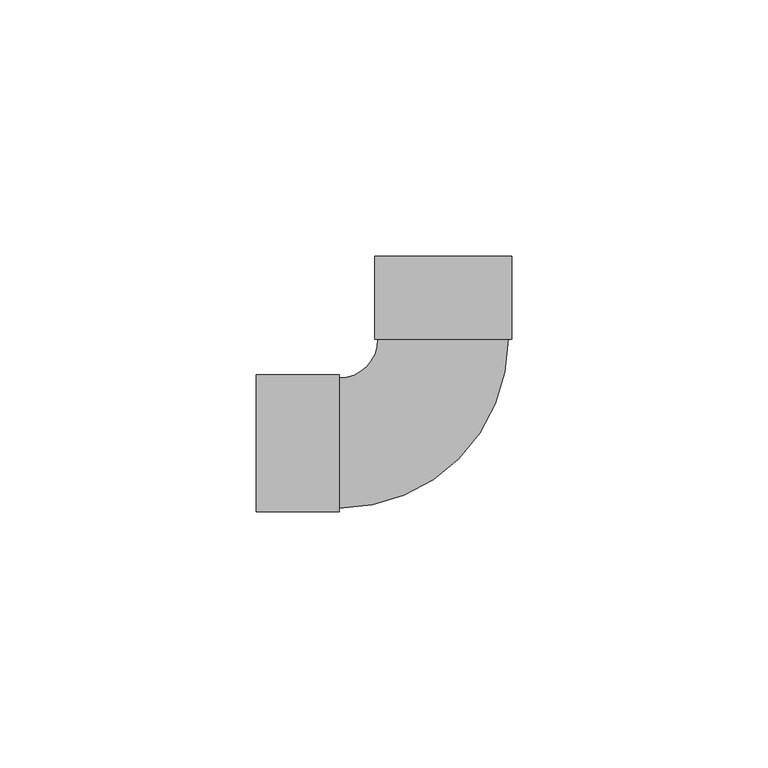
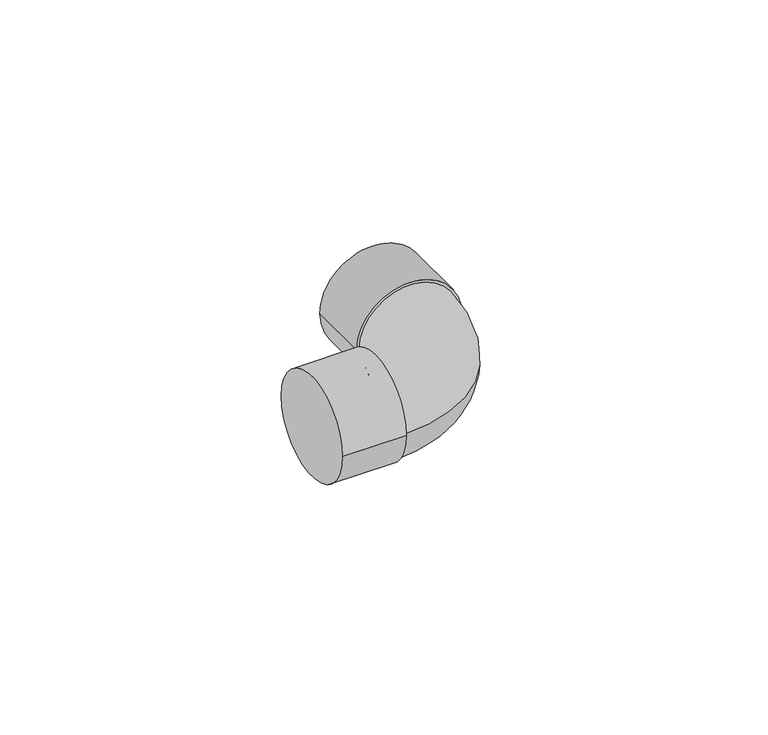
"""IFC4 building model written with IfcOpenShell, lengths in millimetres: pipe fitting geometry, Cotovelo - Soldado - CU : Padrão."""

from ifc_helpers import new_model, si_unit, point, frame, origin, place, context, project, spatial, circle_curve, ellipse_curve, trimmed, source, transform, mapped, element, save
from ifc_brep_helpers import plane_surface, cylinder_surface, revolved_surface, advanced_brep


def pipe_fitting_a6b5687e(model_context):
    return source(origin(), model_context, "Body", "AdvancedBrep", [
        advanced_brep(
        [(-12.7010155, 20.2733639, 0.0), (-20.274, 12.7, 0.0), (-20.274, -12.7, 0.0), (12.6989845, 20.2746361, 0.0), (-36.412, -13.354, 0.0), (-36.412, 13.354, 0.0), (-20.274, -13.354, 0.0), (-20.274, 13.354, 0.0), (-13.3558238, 36.4113311, 0.0), (13.3521762, 36.4126688, 0.0), (-13.3550155, 20.2733311, 0.0), (13.3529845, 20.2746688, 0.0)],
        [
            (0, 1, circle_curve(frame((-20.274, 20.2729845, 0.0), z_axis=(0.0, 0.0, -1.0), x_axis=(0.0, -1.0, 0.0)), 7.5729845)),
            (1, 2, circle_curve(frame((-20.274, 0.0, 0.0), z_axis=(1.0, 0.0, 0.0), x_axis=(0.0, 1.0, 0.0)), 12.7)),
            (2, 3, circle_curve(frame((-20.274, 20.2729845, 0.0), z_axis=(0.0, 0.0, 1.0), x_axis=(0.0, -1.0, 0.0)), 32.9729845)),
            (3, 0, circle_curve(frame((-0.0010155, 20.274, 0.0), z_axis=(5.008757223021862e-05, -0.9999999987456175, 0.0), x_axis=(-0.9999999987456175, -5.008757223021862e-05, 0.0)), 12.7)),
            (0, 3, circle_curve(frame((-0.0010155, 20.274, 0.0), z_axis=(5.008757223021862e-05, -0.9999999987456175, 0.0), x_axis=(-0.9999999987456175, -5.008757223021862e-05, 0.0)), 12.7)),
            (2, 1, circle_curve(frame((-20.274, 0.0, 0.0), z_axis=(1.0, 0.0, 0.0), x_axis=(0.0, 1.0, 0.0)), 12.7)),
            (4, 5, circle_curve(frame((-36.412, 0.0, 0.0), z_axis=(-1.0, 0.0, 0.0), x_axis=(0.0, 1.0, 0.0)), 13.354)),
            (5, 4, circle_curve(frame((-36.412, 0.0, 0.0), z_axis=(-1.0, 0.0, 0.0), x_axis=(0.0, 1.0, 0.0)), 13.354)),
            (6, 7, circle_curve(frame((-20.274, 0.0, 0.0), z_axis=(1.0, 0.0, 0.0), x_axis=(0.0, 1.0, 0.0)), 13.354)),
            (7, 6, circle_curve(frame((-20.274, 0.0, 0.0), z_axis=(1.0, 0.0, 0.0), x_axis=(0.0, 1.0, 0.0)), 13.354)),
            (4, 6),
            (7, 5),
            (8, 9, circle_curve(frame((-0.0018238, 36.412, 0.0), z_axis=(-5.008757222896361e-05, 0.9999999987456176, 0.0), x_axis=(0.9999999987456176, 5.008757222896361e-05, 0.0)), 13.354)),
            (9, 8, circle_curve(frame((-0.0018238, 36.412, 0.0), z_axis=(-5.008757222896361e-05, 0.9999999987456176, 0.0), x_axis=(0.9999999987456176, 5.008757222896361e-05, 0.0)), 13.354)),
            (10, 11, circle_curve(frame((-0.0010155, 20.274, 0.0), z_axis=(5.008757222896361e-05, -0.9999999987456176, 0.0), x_axis=(0.9999999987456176, 5.008757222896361e-05, 0.0)), 13.354)),
            (11, 10, circle_curve(frame((-0.0010155, 20.274, 0.0), z_axis=(5.008757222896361e-05, -0.9999999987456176, 0.0), x_axis=(0.9999999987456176, 5.008757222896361e-05, 0.0)), 13.354)),
            (8, 10),
            (11, 9),
        ],
        [
            revolved_surface(trimmed(ellipse_curve(frame((-20.274, 0.0, 0.0), z_axis=(-1.0, 0.0, 0.0), x_axis=(0.0, 1.0, 0.0)), 12.7, 12.7), [point((-20.274, -12.7, 0.0))], [point((-20.274, 12.7, 0.0))], True, "CARTESIAN"), (-20.274, 20.2729845, 0.0), (0.0, 0.0, 1.0)),
            revolved_surface(trimmed(ellipse_curve(frame((-20.274, 0.0, 0.0), z_axis=(-1.0, 0.0, 0.0), x_axis=(0.0, 1.0, 0.0)), 12.7, 12.7), [point((-20.274, 12.7, 0.0))], [point((-20.274, -12.7, 0.0))], True, "CARTESIAN"), (-20.274, 20.2729845, 0.0), (0.0, 0.0, 1.0)),
            plane_surface(frame((-36.412, 0.0, 0.0), z_axis=(-1.0, 0.0, 0.0), x_axis=(0.0, 0.0, 1.0))),
            plane_surface(frame((-20.274, 0.0, 0.0), z_axis=(1.0, 0.0, 0.0), x_axis=(0.0, 0.0, 1.0))),
            cylinder_surface(frame((-36.412, 0.0, 0.0), z_axis=(-1.0, 0.0, 0.0), x_axis=(0.0, 1.0, 0.0)), 13.354),
            plane_surface(frame((-0.0018238, 36.412, 0.0), z_axis=(-5.008757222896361e-05, 0.9999999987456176, 0.0), x_axis=(0.0, 0.0, 1.0))),
            plane_surface(frame((-0.0010155, 20.274, 0.0), z_axis=(5.008757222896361e-05, -0.9999999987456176, 0.0), x_axis=(0.0, 0.0, 1.0))),
            cylinder_surface(frame((-0.0018238, 36.412, 0.0), z_axis=(-5.008757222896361e-05, 0.9999999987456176, 0.0), x_axis=(0.9999999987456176, 5.008757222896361e-05, 0.0)), 13.354),
        ],
        [
            (0, [[1, 2, 3, 4]]),
            (1, [[-1, 5, -3, 6]]),
            (2, [[7, 8]]),
            (3, [[9, 10], [-2, -6]]),
            (4, [[-7, 11, -10, 12]]),
            (4, [[-8, -12, -9, -11]]),
            (5, [[13, 14]]),
            (6, [[15, 16], [-4, -5]]),
            (7, [[-13, 17, -16, 18]]),
            (7, [[-14, -18, -15, -17]]),
        ],
    ),
    ])


if __name__ == "__main__":
    model = new_model("IFC4")
    model_context = context("Model", 3, world=origin())
    ifc_project = project(units=[si_unit("LENGTHUNIT", "METRE", prefix="MILLI")], contexts=[model_context])
    site = spatial("IfcSite", under=ifc_project)
    building = spatial("IfcBuilding", under=site)
    placement = place(None, origin())
    pipe_fitting_shape = pipe_fitting_a6b5687e(model_context)
    element("IfcPipeFitting", 1, ObjectType="Cotovelo - Soldado - CU : Padrão", at=placement, inside=building, context=model_context, shape_type="MappedRepresentation", body=[
        mapped(pipe_fitting_shape, transform((0.0, 0.0, 0.0), x_axis=(1.0, 0.0, 0.0), y_axis=(0.0, 1.0, 0.0), z_axis=(0.0, 0.0, 1.0))),
    ])
    save(model, "model.ifc")
